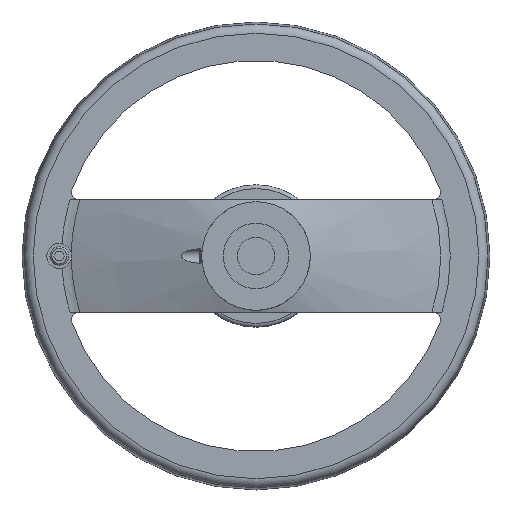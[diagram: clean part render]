
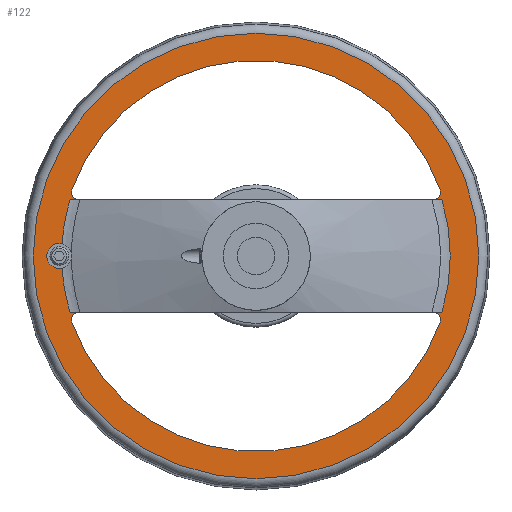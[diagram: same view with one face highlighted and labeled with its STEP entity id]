
A CAD part, left-side view. The second image highlights one B-rep face of the part: STEP entity #122.
In plain terms, the highlighted planar face has unit normal (-1, 0, 0).
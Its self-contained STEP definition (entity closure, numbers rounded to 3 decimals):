
#122 = ADVANCED_FACE( '', ( #279, #280, #281, #282 ), #283, .F. );
#279 = FACE_BOUND( '', #496, .T. );
#280 = FACE_OUTER_BOUND( '', #497, .T. );
#281 = FACE_BOUND( '', #498, .T. );
#282 = FACE_BOUND( '', #499, .T. );
#283 = PLANE( '', #500 );
#496 = EDGE_LOOP( '', ( #917, #918, #919, #920, #921, #922 ) );
#497 = EDGE_LOOP( '', ( #923 ) );
#498 = EDGE_LOOP( '', ( #924, #925, #926, #927 ) );
#499 = EDGE_LOOP( '', ( #928, #929, #930, #931 ) );
#500 = AXIS2_PLACEMENT_3D( '', #932, #933, #934 );
#917 = ORIENTED_EDGE( '', *, *, #1296, .F. );
#918 = ORIENTED_EDGE( '', *, *, #1210, .F. );
#919 = ORIENTED_EDGE( '', *, *, #1213, .F. );
#920 = ORIENTED_EDGE( '', *, *, #1215, .F. );
#921 = ORIENTED_EDGE( '', *, *, #1298, .F. );
#922 = ORIENTED_EDGE( '', *, *, #1299, .F. );
#923 = ORIENTED_EDGE( '', *, *, #1300, .T. );
#924 = ORIENTED_EDGE( '', *, *, #1292, .F. );
#925 = ORIENTED_EDGE( '', *, *, #1289, .F. );
#926 = ORIENTED_EDGE( '', *, *, #1286, .F. );
#927 = ORIENTED_EDGE( '', *, *, #1301, .F. );
#928 = ORIENTED_EDGE( '', *, *, #1282, .F. );
#929 = ORIENTED_EDGE( '', *, *, #1279, .F. );
#930 = ORIENTED_EDGE( '', *, *, #1276, .F. );
#931 = ORIENTED_EDGE( '', *, *, #1302, .F. );
#932 = CARTESIAN_POINT( '', ( 38., -118.889, 0. ) );
#933 = DIRECTION( '', ( 1., 0., 0. ) );
#934 = DIRECTION( '', ( 0., 0., -1. ) );
#1210 = EDGE_CURVE( '', #1400, #1402, #1403, .T. );
#1213 = EDGE_CURVE( '', #1405, #1400, #1407, .T. );
#1215 = EDGE_CURVE( '', #1410, #1405, #1411, .F. );
#1276 = EDGE_CURVE( '', #1518, #1520, #1521, .F. );
#1279 = EDGE_CURVE( '', #1520, #1525, #1526, .T. );
#1282 = EDGE_CURVE( '', #1525, #1530, #1531, .F. );
#1286 = EDGE_CURVE( '', #1536, #1538, #1539, .F. );
#1289 = EDGE_CURVE( '', #1538, #1543, #1544, .F. );
#1292 = EDGE_CURVE( '', #1543, #1548, #1549, .F. );
#1296 = EDGE_CURVE( '', #1402, #1555, #1556, .T. );
#1298 = EDGE_CURVE( '', #1558, #1410, #1559, .T. );
#1299 = EDGE_CURVE( '', #1555, #1558, #1560, .T. );
#1300 = EDGE_CURVE( '', #1561, #1561, #1562, .T. );
#1301 = EDGE_CURVE( '', #1548, #1536, #1563, .T. );
#1302 = EDGE_CURVE( '', #1530, #1518, #1564, .F. );
#1400 = VERTEX_POINT( '', #1858 );
#1402 = VERTEX_POINT( '', #1867 );
#1403 = LINE( '', #1868, #1869 );
#1405 = VERTEX_POINT( '', #1878 );
#1407 = CIRCLE( '', #1893, 103.673 );
#1410 = VERTEX_POINT( '', #1896 );
#1411 = CIRCLE( '', #1897, 6.667 );
#1518 = VERTEX_POINT( '', #2144 );
#1520 = VERTEX_POINT( '', #2147 );
#1521 = CIRCLE( '', #2148, 4. );
#1525 = VERTEX_POINT( '', #2178 );
#1526 = LINE( '', #2179, #2180 );
#1530 = VERTEX_POINT( '', #2206 );
#1531 = CIRCLE( '', #2207, 4. );
#1536 = VERTEX_POINT( '', #2234 );
#1538 = VERTEX_POINT( '', #2237 );
#1539 = CIRCLE( '', #2238, 4. );
#1543 = VERTEX_POINT( '', #2243 );
#1544 = CIRCLE( '', #2244, 104.4 );
#1548 = VERTEX_POINT( '', #2271 );
#1549 = CIRCLE( '', #2272, 4. );
#1555 = VERTEX_POINT( '', #2279 );
#1556 = CIRCLE( '', #2280, 103.673 );
#1558 = VERTEX_POINT( '', #2289 );
#1559 = CIRCLE( '', #2290, 103.673 );
#1560 = LINE( '', #2291, #2292 );
#1561 = VERTEX_POINT( '', #2293 );
#1562 = CIRCLE( '', #2294, 118.889 );
#1563 = LINE( '', #2295, #2296 );
#1564 = CIRCLE( '', #2297, 104.4 );
#1858 = CARTESIAN_POINT( '', ( 38., 99.238, -29.999 ) );
#1867 = CARTESIAN_POINT( '', ( 38., -99.238, -29.999 ) );
#1868 = CARTESIAN_POINT( '', ( 38., 250., -29.999 ) );
#1869 = VECTOR( '', #2485, 1000. );
#1878 = CARTESIAN_POINT( '', ( 38., 103.47, -6.489 ) );
#1893 = AXIS2_PLACEMENT_3D( '', #2486, #2487, #2488 );
#1896 = CARTESIAN_POINT( '', ( 38., 103.47, 6.489 ) );
#1897 = AXIS2_PLACEMENT_3D( '', #2492, #2493, #2494 );
#2144 = CARTESIAN_POINT( '', ( 38., -98.231, -35.355 ) );
#2147 = CARTESIAN_POINT( '', ( 38., -94.468, -30. ) );
#2148 = AXIS2_PLACEMENT_3D( '', #2597, #2598, #2599 );
#2178 = CARTESIAN_POINT( '', ( 38., 94.468, -30. ) );
#2179 = CARTESIAN_POINT( '', ( 38., -118.889, -30. ) );
#2180 = VECTOR( '', #2601, 1000. );
#2206 = CARTESIAN_POINT( '', ( 38., 98.231, -35.355 ) );
#2207 = AXIS2_PLACEMENT_3D( '', #2603, #2604, #2605 );
#2234 = CARTESIAN_POINT( '', ( 38., -94.468, 30. ) );
#2237 = CARTESIAN_POINT( '', ( 38., -98.231, 35.355 ) );
#2238 = AXIS2_PLACEMENT_3D( '', #2608, #2609, #2610 );
#2243 = CARTESIAN_POINT( '', ( 38., 98.231, 35.355 ) );
#2244 = AXIS2_PLACEMENT_3D( '', #2615, #2616, #2617 );
#2271 = CARTESIAN_POINT( '', ( 38., 94.468, 30. ) );
#2272 = AXIS2_PLACEMENT_3D( '', #2619, #2620, #2621 );
#2279 = CARTESIAN_POINT( '', ( 38., -99.238, 29.999 ) );
#2280 = AXIS2_PLACEMENT_3D( '', #2629, #2630, #2631 );
#2289 = CARTESIAN_POINT( '', ( 38., 99.238, 29.999 ) );
#2290 = AXIS2_PLACEMENT_3D( '', #2632, #2633, #2634 );
#2291 = CARTESIAN_POINT( '', ( 38., -250., 29.999 ) );
#2292 = VECTOR( '', #2635, 1000. );
#2293 = CARTESIAN_POINT( '', ( 38., 0., 118.889 ) );
#2294 = AXIS2_PLACEMENT_3D( '', #2636, #2637, #2638 );
#2295 = CARTESIAN_POINT( '', ( 38., -118.889, 30. ) );
#2296 = VECTOR( '', #2639, 1000. );
#2297 = AXIS2_PLACEMENT_3D( '', #2640, #2641, #2642 );
#2485 = DIRECTION( '', ( 0., -1., 0. ) );
#2486 = CARTESIAN_POINT( '', ( 38., 0., 0. ) );
#2487 = DIRECTION( '', ( -1., 0., 0. ) );
#2488 = DIRECTION( '', ( 0., 0., 1. ) );
#2492 = CARTESIAN_POINT( '', ( 38., 105., 0. ) );
#2493 = DIRECTION( '', ( 1., 0., 0. ) );
#2494 = DIRECTION( '', ( 0., 0., -1. ) );
#2597 = CARTESIAN_POINT( '', ( 38., -94.468, -34. ) );
#2598 = DIRECTION( '', ( 1., 0., 0. ) );
#2599 = DIRECTION( '', ( 0., 0., -1. ) );
#2601 = DIRECTION( '', ( 0., 1., 0. ) );
#2603 = CARTESIAN_POINT( '', ( 38., 94.468, -34. ) );
#2604 = DIRECTION( '', ( 1., 0., 0. ) );
#2605 = DIRECTION( '', ( 0., 0., -1. ) );
#2608 = CARTESIAN_POINT( '', ( 38., -94.468, 34. ) );
#2609 = DIRECTION( '', ( 1., 0., 0. ) );
#2610 = DIRECTION( '', ( 0., 0., -1. ) );
#2615 = CARTESIAN_POINT( '', ( 38., 0., 0. ) );
#2616 = DIRECTION( '', ( 1., 0., 0. ) );
#2617 = DIRECTION( '', ( 0., 0., -1. ) );
#2619 = CARTESIAN_POINT( '', ( 38., 94.468, 34. ) );
#2620 = DIRECTION( '', ( 1., 0., 0. ) );
#2621 = DIRECTION( '', ( 0., 0., -1. ) );
#2629 = CARTESIAN_POINT( '', ( 38., 0., 0. ) );
#2630 = DIRECTION( '', ( -1., 0., 0. ) );
#2631 = DIRECTION( '', ( 0., 0., 1. ) );
#2632 = CARTESIAN_POINT( '', ( 38., 0., 0. ) );
#2633 = DIRECTION( '', ( -1., 0., 0. ) );
#2634 = DIRECTION( '', ( 0., 0., 1. ) );
#2635 = DIRECTION( '', ( 0., 1., 0. ) );
#2636 = CARTESIAN_POINT( '', ( 38., 0., 0. ) );
#2637 = DIRECTION( '', ( -1., 0., 0. ) );
#2638 = DIRECTION( '', ( 0., 0., 1. ) );
#2639 = DIRECTION( '', ( 0., -1., 0. ) );
#2640 = CARTESIAN_POINT( '', ( 38., 0., 0. ) );
#2641 = DIRECTION( '', ( 1., 0., 0. ) );
#2642 = DIRECTION( '', ( 0., 0., -1. ) );
